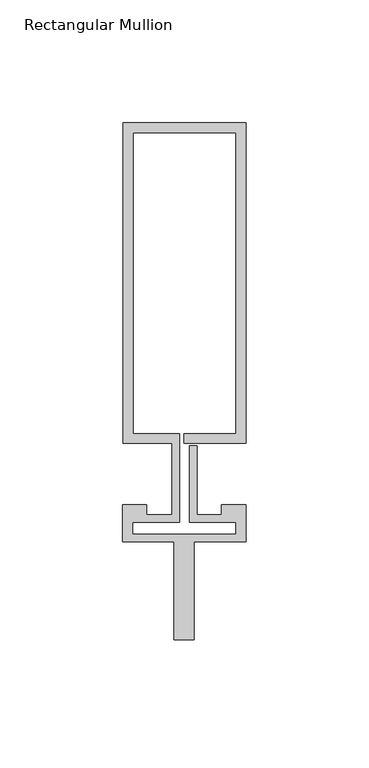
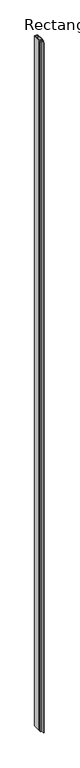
"""IFC4 building model written with IfcOpenShell, lengths in millimetres: member geometry, Rectangular Mullion : Reynaers_CW-50_Mullion-Transom_Horizontal_130.4mm_Facecap-06B."""

from ifc_helpers import new_model, si_unit, frame, origin, place, context, project, spatial, polyline, outline, extrude, source, transform, mapped, element, save


def rectangular_mullion_a8d858be(model_context):
    return source(origin(), model_context, "Body", "SweptSolid", [
        extrude(outline(polyline([(-24.8004059, 142.9), (25.1995941, 142.9), (25.1995941, 12.5), (0.0, 12.5), (0.0, 16.5), (21.1995941, 16.5), (21.1995941, 138.9), (-20.8004059, 138.9), (-20.8004059, 16.5), (-1.9004059, 16.5), (-1.9004059, -19.5), (-20.994845, -19.5), (-20.994845, -24.4191338), (21.1995941, -24.4191338), (21.1995941, -19.5), (2.2995941, -19.5), (2.2995941, 11.5), (5.2995941, 11.5), (5.2995941, -16.5), (15.2996495, -16.5), (15.2996495, -12.5), (25.1995941, -12.5), (25.1995941, -27.5), (4.004855, -27.5), (4.004855, -67.5), (-3.995145, -67.5), (-3.995145, -27.5), (-24.994845, -27.5), (-24.994845, -12.5), (-15.2996495, -12.5), (-15.2996495, -16.5), (-4.9004059, -16.5), (-4.9004059, 12.5), (-24.8004059, 12.5), (-24.8004059, 142.9)])), frame((0.0, 0.0, -12000.0), z_axis=(0.0, 0.0, 1.0), x_axis=(1.0, 0.0, 0.0)), (0.0, 0.0, 1.0), 12000.0),
    ])


if __name__ == "__main__":
    model = new_model("IFC4")
    model_context = context("Model", 3, world=origin())
    ifc_project = project(units=[si_unit("LENGTHUNIT", "METRE", prefix="MILLI")], contexts=[model_context])
    site = spatial("IfcSite", under=ifc_project)
    building = spatial("IfcBuilding", under=site)
    placement = place(None, origin())
    rectangular_mullion_shape = rectangular_mullion_a8d858be(model_context)
    element("IfcMember", 1, ObjectType="Rectangular Mullion : Reynaers_CW-50_Mullion-Transom_Horizontal_130.4mm_Facecap-06B", at=placement, inside=building, context=model_context, shape_type="MappedRepresentation", body=[
        mapped(rectangular_mullion_shape, transform((0.0, 0.0, 0.0), x_axis=(1.0, 0.0, 0.0), y_axis=(0.0, 1.0, 0.0), z_axis=(0.0, 0.0, 1.0))),
    ])
    save(model, "model.ifc")
